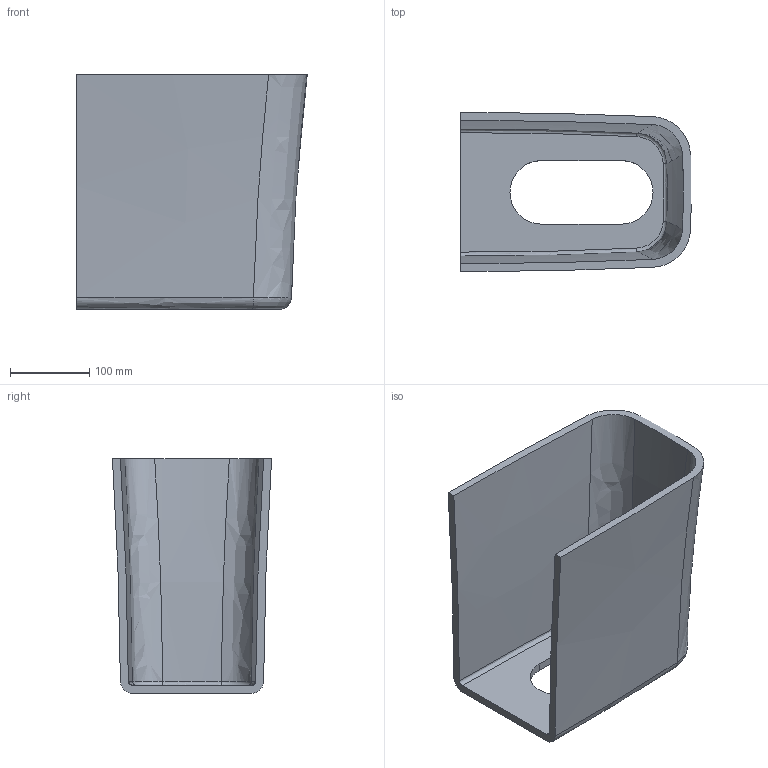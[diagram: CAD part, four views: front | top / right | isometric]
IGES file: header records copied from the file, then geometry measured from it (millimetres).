
Start section:  PTC IGES file: lw136hfy.igs
Global section: file name: lw136hfy.igs; native system: Creo Parametric by Parametric Technology Corporation; preprocessor: 2013050; author: Uporabnik; organization: Unknown; date: 20150119.134743; units: millimetre
Bounding box: 290.11 x 200.26 x 295 mm (x, y, z)
Volume: 2229949.2 mm3; surface area: 465088.3 mm2
Topology: 1 solids, 1 shells, 28 faces, 71 edges, 45 vertices
Faces by surface type: bspline 22, revolution 6
